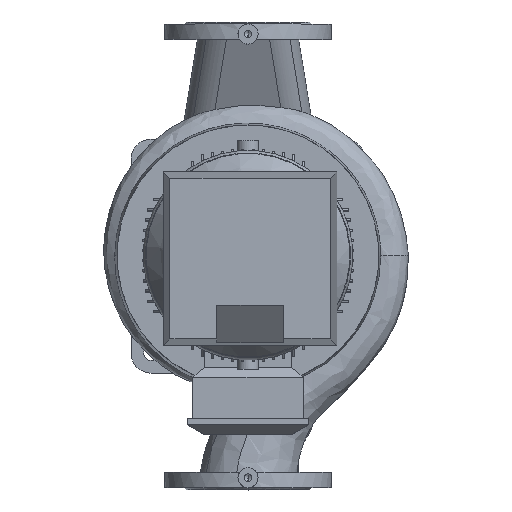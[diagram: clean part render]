
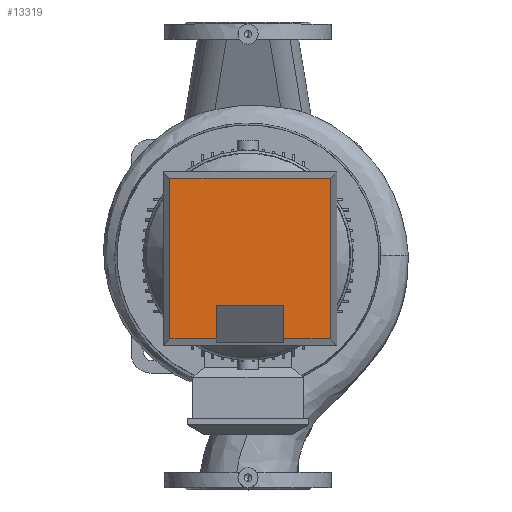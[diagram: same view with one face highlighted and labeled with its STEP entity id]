
A CAD part, top view. The second image highlights one B-rep face of the part: STEP entity #13319.
In plain terms, the highlighted planar face has unit normal (0, 0, 1) as drawn and (0, 1, 0) by its records, which use the part's own axes.
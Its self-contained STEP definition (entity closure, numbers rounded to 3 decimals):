
#13319=ADVANCED_FACE('',(#26139),#26140,.T.);
#13329=EDGE_CURVE('',#26155,#26152,#26156,.T.);
#26139=FACE_OUTER_BOUND('',#46613,.T.);
#26140=PLANE('',#46614);
#26152=VERTEX_POINT('',#46627);
#26155=VERTEX_POINT('',#46632);
#26156=LINE('',#46633,#46634);
#46613=EDGE_LOOP('',(#64210,#64211,#64212,#64213,#64214,#64215,#64216,#64217));
#46614=AXIS2_PLACEMENT_3D('',#64218,#64219,#64220);
#46627=CARTESIAN_POINT('',(-50.0,90.0,199.485));
#46632=CARTESIAN_POINT('',(-50.0,90.0,250.0));
#46633=CARTESIAN_POINT('',(-50.0,90.0,127.834));
#46634=VECTOR('',#64246,1.0);
#64210=ORIENTED_EDGE('',*,*,#67023,.T.);
#64211=ORIENTED_EDGE('',*,*,#67029,.F.);
#64212=ORIENTED_EDGE('',*,*,#67037,.F.);
#64213=ORIENTED_EDGE('',*,*,#67039,.F.);
#64214=ORIENTED_EDGE('',*,*,#67031,.F.);
#64215=ORIENTED_EDGE('',*,*,#67025,.F.);
#64216=ORIENTED_EDGE('',*,*,#13329,.T.);
#64217=ORIENTED_EDGE('',*,*,#67019,.T.);
#64218=CARTESIAN_POINT('',(0.0,90.0,0.0));
#64219=DIRECTION('',(0.0,1.0,-0.0));
#64220=DIRECTION('',(-1.0,0.0,0.0));
#64246=DIRECTION('',(0.0,-0.0,-1.0));
#67019=EDGE_CURVE('',#26152,#70581,#70584,.T.);
#67023=EDGE_CURVE('',#70581,#70587,#70589,.T.);
#67025=EDGE_CURVE('',#26155,#70591,#70592,.T.);
#67029=EDGE_CURVE('',#70597,#70587,#70599,.T.);
#67031=EDGE_CURVE('',#70591,#70601,#70602,.T.);
#67037=EDGE_CURVE('',#70607,#70597,#70609,.T.);
#67039=EDGE_CURVE('',#70601,#70607,#70611,.T.);
#70581=VERTEX_POINT('',#78694);
#70584=LINE('',#78698,#78699);
#70587=VERTEX_POINT('',#78703);
#70589=LINE('',#78706,#78707);
#70591=VERTEX_POINT('',#78709);
#70592=LINE('',#78710,#78711);
#70597=VERTEX_POINT('',#78718);
#70599=LINE('',#78721,#78722);
#70601=VERTEX_POINT('',#78724);
#70602=LINE('',#78725,#78726);
#70607=VERTEX_POINT('',#78734);
#70609=LINE('',#78737,#78738);
#70611=LINE('',#78740,#78741);
#78694=CARTESIAN_POINT('',(50.0,90.0,199.485));
#78698=CARTESIAN_POINT('',(-25.0,90.0,199.485));
#78699=VECTOR('',#80296,1.0);
#78703=CARTESIAN_POINT('',(50.0,90.0,250.0));
#78706=CARTESIAN_POINT('',(50.0,90.0,127.834));
#78707=VECTOR('',#80299,1.0);
#78709=CARTESIAN_POINT('',(-120.0,90.0,250.0));
#78710=CARTESIAN_POINT('',(65.0,90.0,250.0));
#78711=VECTOR('',#80300,1.0);
#78718=CARTESIAN_POINT('',(120.0,90.0,250.0));
#78721=CARTESIAN_POINT('',(65.0,90.0,250.0));
#78722=VECTOR('',#80304,1.0);
#78724=CARTESIAN_POINT('',(-120.0,90.0,10.0));
#78725=CARTESIAN_POINT('',(-120.0,90.0,0.0));
#78726=VECTOR('',#80305,1.0);
#78734=CARTESIAN_POINT('',(120.0,90.0,10.0));
#78737=CARTESIAN_POINT('',(120.0,90.0,0.0));
#78738=VECTOR('',#80310,1.0);
#78740=CARTESIAN_POINT('',(65.0,90.0,10.0));
#78741=VECTOR('',#80311,1.0);
#80296=DIRECTION('',(1.0,0.0,0.0));
#80299=DIRECTION('',(-0.0,0.0,1.0));
#80300=DIRECTION('',(-1.0,0.0,-0.0));
#80304=DIRECTION('',(-1.0,0.0,-0.0));
#80305=DIRECTION('',(-0.0,-0.0,-1.0));
#80310=DIRECTION('',(-0.0,0.0,1.0));
#80311=DIRECTION('',(1.0,-0.0,-0.0));
